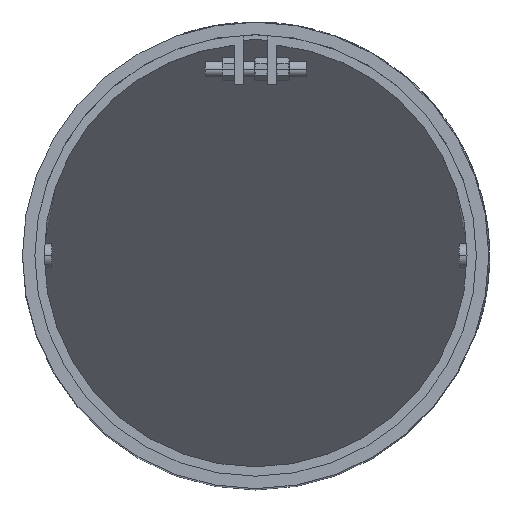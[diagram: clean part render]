
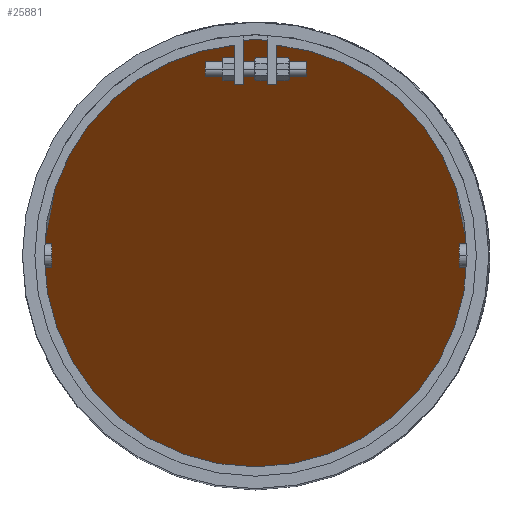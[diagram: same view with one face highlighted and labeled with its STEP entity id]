
A CAD part, top view. The second image highlights one B-rep face of the part: STEP entity #25881.
In plain terms, the highlighted planar face has unit normal (0, -0.707, 0.707).
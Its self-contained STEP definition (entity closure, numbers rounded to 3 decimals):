
#2452 = EDGE_CURVE ( 'NONE', #50900, #51538, #66808, .T. ) ;
#5938 = CARTESIAN_POINT ( 'NONE',  ( 139., 278., 534.828 ) ) ;
#7410 = CARTESIAN_POINT ( 'NONE',  ( 434.587, -128.414, 128.414 ) ) ;
#10059 = AXIS2_PLACEMENT_3D ( 'NONE', #7410, #38336, #51027 ) ;
#19713 = PLANE ( 'NONE',  #10059 ) ;
#19776 = EDGE_LOOP ( 'NONE', ( #38129, #79034 ) ) ;
#20504 = CARTESIAN_POINT ( 'NONE',  ( -139., 278., 534.828 ) ) ;
#20896 = CARTESIAN_POINT ( 'NONE',  ( -139., 0., 256.828 ) ) ;
#25153 = CARTESIAN_POINT ( 'NONE',  ( -139., 0., 256.828 ) ) ;
#25881 = ADVANCED_FACE ( 'NONE', ( #31857 ), #19713, .F. ) ;
#31857 = FACE_OUTER_BOUND ( 'NONE', #19776, .T. ) ;
#32592 = CARTESIAN_POINT ( 'NONE',  ( 139., 0., 256.828 ) ) ;
#37473 = CARTESIAN_POINT ( 'NONE',  ( -139., -278., -21.172 ) ) ;
#38129 = ORIENTED_EDGE ( 'NONE', *, *, #2452, .T. ) ;
#38336 = DIRECTION ( 'NONE',  ( 0., 0.707, -0.707 ) ) ;
#43513 = CARTESIAN_POINT ( 'NONE',  ( 139., 0., 256.828 ) ) ;
#50900 = VERTEX_POINT ( 'NONE', #25153 ) ;
#51027 = DIRECTION ( 'NONE',  ( 0., 0.707, 0.707 ) ) ;
#51538 = VERTEX_POINT ( 'NONE', #43513 ) ;
#56281 = CARTESIAN_POINT ( 'NONE',  ( 139., -278., -21.172 ) ) ;
#66695 = EDGE_CURVE ( 'NONE', #51538, #50900, #70421, .T. ) ;
#66808 =( BOUNDED_CURVE ( )  B_SPLINE_CURVE ( 3, ( #69369, #37473, #56281, #32592 ),
 .UNSPECIFIED., .F., .T. ) 
 B_SPLINE_CURVE_WITH_KNOTS ( ( 4, 4 ),
 ( 4.712, 7.854 ),
 .UNSPECIFIED. ) 
 CURVE ( )  GEOMETRIC_REPRESENTATION_ITEM ( )  RATIONAL_B_SPLINE_CURVE ( ( 1., 0.333, 0.333, 1. ) ) 
 REPRESENTATION_ITEM ( '' )  );
#69369 = CARTESIAN_POINT ( 'NONE',  ( -139., 0., 256.828 ) ) ;
#70421 =( BOUNDED_CURVE ( )  B_SPLINE_CURVE ( 3, ( #80601, #5938, #20504, #20896 ),
 .UNSPECIFIED., .F., .F. ) 
 B_SPLINE_CURVE_WITH_KNOTS ( ( 4, 4 ),
 ( 1.571, 4.712 ),
 .UNSPECIFIED. ) 
 CURVE ( )  GEOMETRIC_REPRESENTATION_ITEM ( )  RATIONAL_B_SPLINE_CURVE ( ( 1., 0.333, 0.333, 1. ) ) 
 REPRESENTATION_ITEM ( '' )  );
#79034 = ORIENTED_EDGE ( 'NONE', *, *, #66695, .T. ) ;
#80601 = CARTESIAN_POINT ( 'NONE',  ( 139., 0., 256.828 ) ) ;
